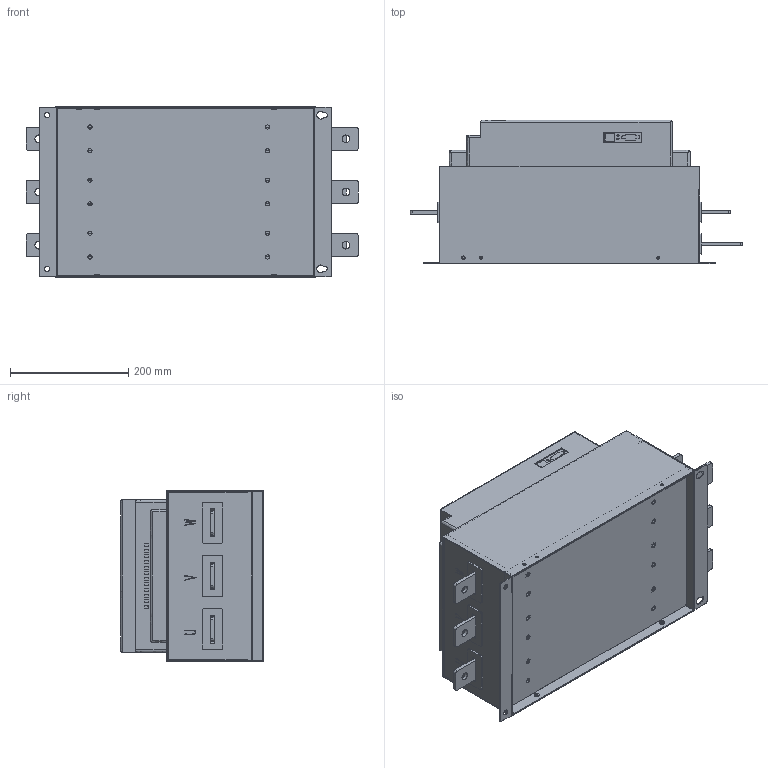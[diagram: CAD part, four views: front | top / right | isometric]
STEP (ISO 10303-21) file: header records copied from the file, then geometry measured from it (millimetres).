
FILE_DESCRIPTION (( 'STEP AP203' ), '1' );
FILE_NAME ('OptiCor S_250-320kWt.STEP', '2022-06-02T08:29:34', ( '' ), ( '' ), 'SwSTEP 2.0', 'SolidWorks 2018', '' );
FILE_SCHEMA (( 'CONFIG_CONTROL_DESIGN' ));
Length unit declared in the file: millimetre
Products named in the file (18): 8ZR.114.401盓傅璃^OptiCor S_250-320kWt(2)_OptiCor S_250-320kWt; 8ZR.069.201諷秶醱啣^OptiCor S_250-320kWt(2)_OptiCor S_250-320kWt; OptiCor S_250-320kWt(2)^OptiCor S_250-320kWt; 8ZR.860.202梓齪^OptiCor S_250-320kWt(2)_OptiCor S_250-320kWt; 8ZR.043.404盓殤^OptiCor S_250-320kWt(2)_OptiCor S_250-320kWt; OptiCor S_250-320kWt; 8ZR.022.401菁釱^OptiCor S_250-320kWt(2)_OptiCor S_250-320kWt; 8ZR.043.401盓殤^OptiCor S_250-320kWt(2)_OptiCor S_250-320kWt; 8ZR.156.403垫片^OptiCor S_250-320kWt(2)_OptiCor S_250-320kWt; 8ZR.043.407盓殤^OptiCor S_250-320kWt(2)_OptiCor S_250-320kWt; 8ZR.114.405盓傅璃^OptiCor S_250-320kWt(2)_OptiCor S_250-320kWt; 8ZR.315.301¸Ç^OptiCor S_250-320kWt(2)_OptiCor S_250-320kWt; 8ZR.588.401絳萇啣^OptiCor S_250-320kWt(2)_OptiCor S_250-320kWt; 5ZR.609.401变压器R25TRANSFORMER^OptiCor S_250-320kWt(2)_OptiCor S_250-320kWt; 8ZR.114.408盓傅璃^OptiCor S_250-320kWt(2)_OptiCor S_250-320kWt; 8ZR.864.201梓齪^OptiCor S_250-320kWt(2)_OptiCor S_250-320kWt; 8ZR.588.403絳萇啣^OptiCor S_250-320kWt(2)_OptiCor S_250-320kWt; 8ZR.864.202梓齪^OptiCor S_250-320kWt(2)_OptiCor S_250-320kWt
Assembly tree (31 placements, depth 3):
  8ZR.860.202梓齪^OptiCor S_250-320kWt(2)_OptiCor S_250-320kWt
  OptiCor S_250-320kWt
    OptiCor S_250-320kWt(2)^OptiCor S_250-320kWt
      8ZR.043.404盓殤^OptiCor S_250-320kWt(2)_OptiCor S_250-320kWt
      8ZR.043.401盓殤^OptiCor S_250-320kWt(2)_OptiCor S_250-320kWt
      8ZR.043.407盓殤^OptiCor S_250-320kWt(2)_OptiCor S_250-320kWt
      8ZR.315.301¸Ç^OptiCor S_250-320kWt(2)_OptiCor S_250-320kWt
      5ZR.609.401变压器R25TRANSFORMER^OptiCor S_250-320kWt(2)_OptiCor S_250-320kWt
      8ZR.864.201梓齪^OptiCor S_250-320kWt(2)_OptiCor S_250-320kWt
      8ZR.864.202梓齪^OptiCor S_250-320kWt(2)_OptiCor S_250-320kWt
      8ZR.069.201諷秶醱啣^OptiCor S_250-320kWt(2)_OptiCor S_250-320kWt
      8ZR.022.401菁釱^OptiCor S_250-320kWt(2)_OptiCor S_250-320kWt
      8ZR.156.403垫片^OptiCor S_250-320kWt(2)_OptiCor S_250-320kWt
      8ZR.114.405盓傅璃^OptiCor S_250-320kWt(2)_OptiCor S_250-320kWt  x2
      8ZR.588.401絳萇啣^OptiCor S_250-320kWt(2)_OptiCor S_250-320kWt  x3
      8ZR.114.408盓傅璃^OptiCor S_250-320kWt(2)_OptiCor S_250-320kWt  x3
      8ZR.588.403絳萇啣^OptiCor S_250-320kWt(2)_OptiCor S_250-320kWt  x3
      8ZR.114.401盓傅璃^OptiCor S_250-320kWt(2)_OptiCor S_250-320kWt  x9
Bounding box: 562 x 243 x 290 mm (x, y, z)
Volume: 2391739.7 mm3; surface area: 2052665.1 mm2
Topology: 29 solids, 37 shells, 4304 faces, 12613 edges, 8551 vertices
Faces by surface type: bspline 4304
Entity records: 168585 total; most frequent: CARTESIAN_POINT 101813, ORIENTED_EDGE 21276, EDGE_CURVE 10649, B_SPLINE_CURVE_WITH_KNOTS 10143, VERTEX_POINT 7263, EDGE_LOOP 4135, ADVANCED_FACE 3622, FACE_OUTER_BOUND 3622
